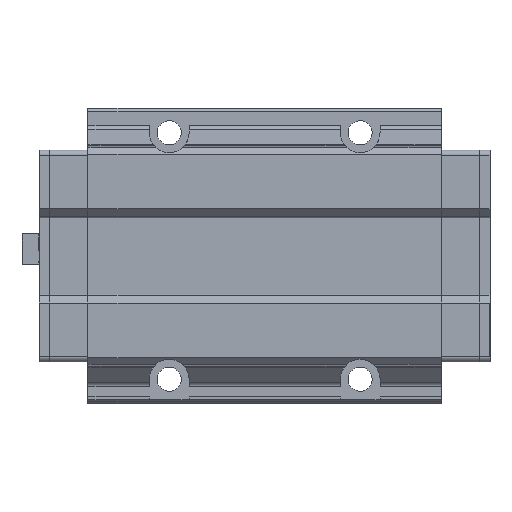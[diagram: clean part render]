
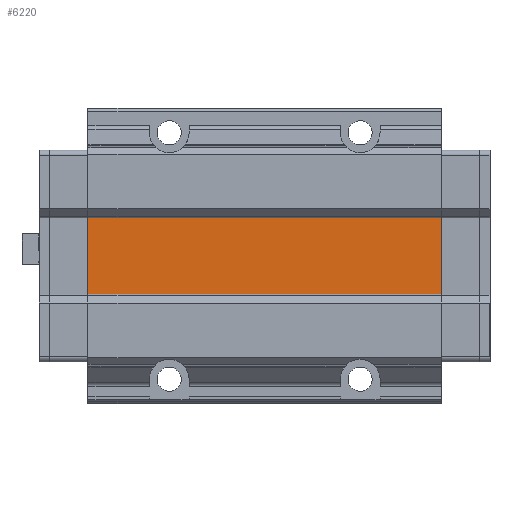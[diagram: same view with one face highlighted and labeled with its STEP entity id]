
A CAD part, front view. The second image highlights one B-rep face of the part: STEP entity #6220.
In plain terms, the highlighted planar face has unit normal (0, -1, 0).
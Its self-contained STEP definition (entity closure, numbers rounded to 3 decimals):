
#266 = VERTEX_POINT ( 'NONE', #7935 ) ;
#1440 = VERTEX_POINT ( 'NONE', #6746 ) ;
#1716 = DIRECTION ( 'NONE',  ( -1., 0., 0. ) ) ;
#1972 = DIRECTION ( 'NONE',  ( 0., 0., -1. ) ) ;
#2105 = CARTESIAN_POINT ( 'NONE',  ( 101.8, 0., 11.5 ) ) ;
#2163 = EDGE_CURVE ( 'NONE', #1440, #12821, #5306, .T. ) ;
#2221 = EDGE_LOOP ( 'NONE', ( #7206, #10649, #7300, #2499 ) ) ;
#2499 = ORIENTED_EDGE ( 'NONE', *, *, #4340, .F. ) ;
#2585 = VECTOR ( 'NONE', #1716, 1000. ) ;
#2774 = CARTESIAN_POINT ( 'NONE',  ( 129.7, 0., -23. ) ) ;
#2867 = DIRECTION ( 'NONE',  ( 0., 1., 0. ) ) ;
#3281 = CARTESIAN_POINT ( 'NONE',  ( 129.7, 0., 23. ) ) ;
#3597 = VERTEX_POINT ( 'NONE', #10699 ) ;
#3970 = CARTESIAN_POINT ( 'NONE',  ( 101.8, 0., 23. ) ) ;
#4174 = VECTOR ( 'NONE', #10307, 1000. ) ;
#4340 = EDGE_CURVE ( 'NONE', #3597, #266, #4478, .T. ) ;
#4478 = LINE ( 'NONE', #2774, #2585 ) ;
#5179 = DIRECTION ( 'NONE',  ( 0., 0., 1. ) ) ;
#5306 = LINE ( 'NONE', #3281, #4174 ) ;
#5816 = PLANE ( 'NONE',  #8459 ) ;
#6068 = CARTESIAN_POINT ( 'NONE',  ( -101.8, 0., 23. ) ) ;
#6220 = ADVANCED_FACE ( 'NONE', ( #11883 ), #5816, .F. ) ;
#6746 = CARTESIAN_POINT ( 'NONE',  ( 101.8, 0., 23. ) ) ;
#7206 = ORIENTED_EDGE ( 'NONE', *, *, #8354, .F. ) ;
#7300 = ORIENTED_EDGE ( 'NONE', *, *, #8785, .F. ) ;
#7935 = CARTESIAN_POINT ( 'NONE',  ( -101.8, 0., -23. ) ) ;
#8015 = CARTESIAN_POINT ( 'NONE',  ( -101.8, 0., 11.5 ) ) ;
#8037 = LINE ( 'NONE', #2105, #11224 ) ;
#8354 = EDGE_CURVE ( 'NONE', #1440, #3597, #8037, .T. ) ;
#8459 = AXIS2_PLACEMENT_3D ( 'NONE', #3970, #2867, #9774 ) ;
#8785 = EDGE_CURVE ( 'NONE', #266, #12821, #12220, .T. ) ;
#9774 = DIRECTION ( 'NONE',  ( 0., 0., -1. ) ) ;
#10307 = DIRECTION ( 'NONE',  ( -1., 0., 0. ) ) ;
#10649 = ORIENTED_EDGE ( 'NONE', *, *, #2163, .T. ) ;
#10699 = CARTESIAN_POINT ( 'NONE',  ( 101.8, 0., -23. ) ) ;
#11224 = VECTOR ( 'NONE', #1972, 1000. ) ;
#11883 = FACE_OUTER_BOUND ( 'NONE', #2221, .T. ) ;
#12220 = LINE ( 'NONE', #8015, #12499 ) ;
#12499 = VECTOR ( 'NONE', #5179, 1000. ) ;
#12821 = VERTEX_POINT ( 'NONE', #6068 ) ;
